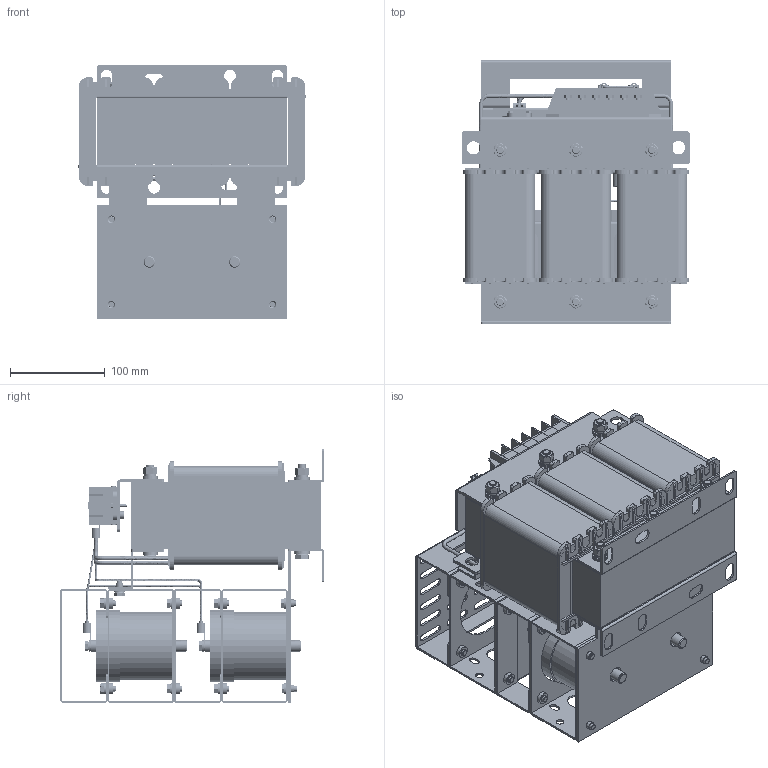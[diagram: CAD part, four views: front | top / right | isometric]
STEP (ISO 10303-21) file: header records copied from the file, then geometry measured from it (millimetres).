
FILE_DESCRIPTION(('STEP AP203'), '1');
FILE_NAME('蔓躅漤铋 耔眢耥 翳朦蝠 _ ISINOF-11_14-6', '', ('UNSPECIFIED'), ('UNSPECIFIED'), 'C3D Converter', 'C3D Toolkit', '');
FILE_SCHEMA(('CONFIG_CONTROL_DESIGN'));
Length unit declared in the file: millimetre
Products named in the file (45): ISINOF-11/14-6; DW8-06-02; LРНЦ吭X2\04560415\X0\1; RNB14-6S; 琵X2\0428\X0\崤X2\043A\X0\; 琵X2\04370418042D0458042C\X0\2 ; 琵X2\04370418042D0426\X0\吭X2\04560415\X0\; 琵X2\04370418042D0426\X0\吭X2\0458042C\X0\; ёЗЧУ (2); №ЗјЬG40X70X120; ї琵X2\041E\X0\做зЧУKV223-2P; А降еМх40-200-1; БщЅЗВЭЛЁM8; ИэПаМъРѕ200-200-68.5; ЙПјРјю НЁУГ40-80; ЙПјРјю40-80\X2\040Ô0448\X0\¶ЛЧУЦ§іЕ; ПВјРјю40-80НЁУГ; ПЯИ¦14A; 吒X2\0425\X0\72-80; plain washers--product grade c gb_GB_FASTENER_WASHER_SMWC 8; spring lock washers--normal type gb_GB_FASTENER_WASHER_SW 8; hexagon nuts grade c gb_GB_FASTENER_NUT_SNC1 M8-N; Cable_1-gb_assembly-038; 琵X2\043704100412\X0\^Cable_1-gb_assembly-038; Cable_2-gb_assembly-030; 琵X2\043704100412\X0\^Cable_2-gb_assembly-030; Cable_3-gb_assembly-023; 琵X2\043704100412\X0\^Cable_3-gb_assembly-023; Cable_4-gb_assembly-017; 琵X2\043704100412\X0\^Cable_4-gb_assembly-017; Cable_5-gb_assembly-008; 琵X2\043704100412\X0\^Cable_5-gb_assembly-008; Cable_6-gb_assembly-007; 琵X2\043704100412\X0\^Cable_6-gb_assembly-007; Cable_8-ХэПТІЁВЛІЁ琵X2\04370457211604160447\X0\SKS-SF-0014-6AЈЇ05; 琵X2\043704100412\X0\^Cable_8-ХэПТІЁВЛІЁ琵X2\04370457211604160447\X0\SKS-SF-0014-6AЈЇ05; Cable_9-ХэПТІЁВЛІЁ琵X2\04370457211604160447\X0\SKS-SF-0014-6AЈЇ05; 琵X2\043704100412\X0\^Cable_9-ХэПТІЁВЛІЁ琵X2\04370457211604160447\X0\SKS-SF-0014-6AЈЇ05; Cable_10-ХэПТІЁВЛІЁ琵X2\04370457211604160447\X0\SKS-SF-0014-6AЈЇ05; 琵X2\043704100412\X0\^Cable_10-ХэПТІЁВЛІЁ琵X2\04370457211604160447\X0\SKS-SF-0014-6AЈЇ05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
Assembly tree (154 placements, depth 3):
  ISINOF-11/14-6
    DW8-06-02
    LРНЦ吭X2\04560415\X0\1  x2
    RNB14-6S  x12
    琵X2\0428\X0\崤X2\043A\X0\
    琵X2\04370418042D0458042C\X0\2   x2
    琵X2\04370418042D0426\X0\吭X2\04560415\X0\  x2
    琵X2\04370418042D0426\X0\吭X2\0458042C\X0\
    ёЗЧУ (2)
    №ЗјЬG40X70X120  x3
    ї琵X2\041E\X0\做зЧУKV223-2P
    А降еМх40-200-1  x6
    БщЅЗВЭЛЁM8  x6
    ИэПаМъРѕ200-200-68.5
    ЙПјРјю НЁУГ40-80
    ЙПјРјю40-80\X2\040Ô0448\X0\¶ЛЧУЦ§іЕ
    ПВјРјю40-80НЁУГ  x2
    ПЯИ¦14A  x3
    吒X2\0425\X0\72-80  x3
    plain washers--product grade c gb_GB_FASTENER_WASHER_SMWC 8  x24
    spring lock washers--normal type gb_GB_FASTENER_WASHER_SW 8  x6
    hexagon nuts grade c gb_GB_FASTENER_NUT_SNC1 M8-N  x6
    Cable_1-gb_assembly-038
      琵X2\043704100412\X0\^Cable_1-gb_assembly-038
    Cable_2-gb_assembly-030
      琵X2\043704100412\X0\^Cable_2-gb_assembly-030
    Cable_3-gb_assembly-023
      琵X2\043704100412\X0\^Cable_3-gb_assembly-023
    Cable_4-gb_assembly-017
      琵X2\043704100412\X0\^Cable_4-gb_assembly-017
    Cable_5-gb_assembly-008
      琵X2\043704100412\X0\^Cable_5-gb_assembly-008
    Cable_6-gb_assembly-007
      琵X2\043704100412\X0\^Cable_6-gb_assembly-007
    Cable_8-ХэПТІЁВЛІЁ琵X2\04370457211604160447\X0\SKS-SF-0014-6AЈЇ05
      琵X2\043704100412\X0\^Cable_8-ХэПТІЁВЛІЁ琵X2\04370457211604160447\X0\SKS-SF-0014-6AЈЇ05
    Cable_9-ХэПТІЁВЛІЁ琵X2\04370457211604160447\X0\SKS-SF-0014-6AЈЇ05
      琵X2\043704100412\X0\^Cable_9-ХэПТІЁВЛІЁ琵X2\04370457211604160447\X0\SKS-SF-0014-6AЈЇ05
    Cable_10-ХэПТІЁВЛІЁ琵X2\04370457211604160447\X0\SKS-SF-0014-6AЈЇ05
      琵X2\043704100412\X0\^Cable_10-ХэПТІЁВЛІЁ琵X2\04370457211604160447\X0\SKS-SF-0014-6AЈЇ05
    Cable_11-ХэПТІЁВЛІЁ琵X2\04370457211604160447\X0\SKS-SF-0014-6AЈЇ05
      琵X2\043704100412\X0\^Cable_11-ХэПТІЁВЛІЁ琵X2\04370457211604160447\X0\SKS-SF-0014-6AЈЇ05
    plain washers--product grade c gb_GB_FASTENER_WASHER_SMWC 6  x24
    hex head bolts-full thread grade c gb_GB_FASTENER_BOLT_HHBFTC M6X12-N  x24
    DW8-06-02МщЦЅ
Bounding box: 240 x 278 x 267.5 mm (x, y, z)
Volume: 5544732.2 mm3; surface area: 1511732.7 mm2
Topology: 198 solids, 198 shells, 3662 faces, 8739 edges, 5631 vertices
Faces by surface type: plane 2469, cylinder 841, cone 301, bspline 41, torus 10
Full cylindrical faces by diameter (mm): 2 x1, 3 x2, 3.8 x2, 4 x28, 5 x12, 6 x50, 6.2 x12, 6.4 x12, 6.6 x24, 6.647 x6, 6.7 x12, 8 x21, 8.68 x6, 9 x24, 11 x30, 12 x39, 12.5 x6, 12.88 x6, 13.65 x1, 14 x2, 14.25 x1, 15 x1, 16 x30, 72 x6, 76 x3, 80 x4
Entity records: 97834 total; most frequent: CARTESIAN_POINT 31410, DIRECTION 9297, ORIENTED_EDGE 9208, EDGE_CURVE 4604, LINE 3445, VECTOR 3445, VERTEX_POINT 3075, AXIS2_PLACEMENT_3D 2926
